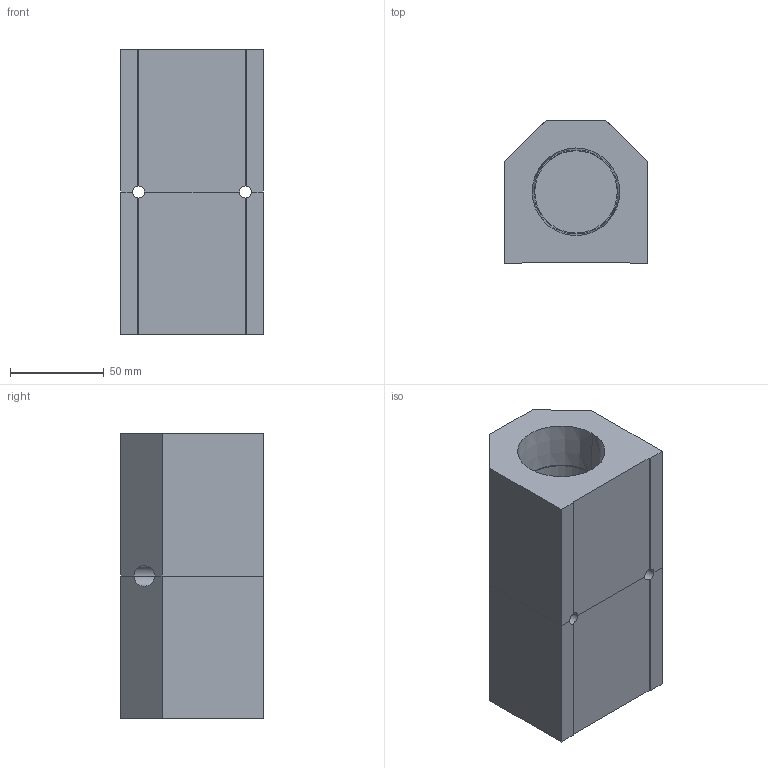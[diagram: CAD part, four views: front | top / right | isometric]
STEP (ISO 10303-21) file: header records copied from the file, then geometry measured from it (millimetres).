
FILE_DESCRIPTION (( 'STEP AP214' ), '1' );
FILE_NAME ('ALM2C-N8N24-152RB.step', '2022-02-07T09:39:28', ( '' ), ( '' ), 'SwSTEP 2.0', 'SolidWorks 2020', '' );
FILE_SCHEMA (( 'AUTOMOTIVE_DESIGN' ));
Length unit declared in the file: millimetre
Products named in the file (1): ALM2C-N8N24-152RB
Bounding box: 76.2 x 76.2 x 152 mm (x, y, z)
Volume: 552946.3 mm3; surface area: 86175.2 mm2
Topology: 2 solids, 2 shells, 314 faces, 826 edges, 550 vertices
Faces by surface type: plane 220, bspline 70, cylinder 16, cone 8
Entity records: 17006 total; most frequent: CARTESIAN_POINT 6855, ORIENTED_EDGE 1652, DIRECTION 1202, EDGE_CURVE 826, VECTOR 632, LINE 632, VERTEX_POINT 550, EDGE_LOOP 352
